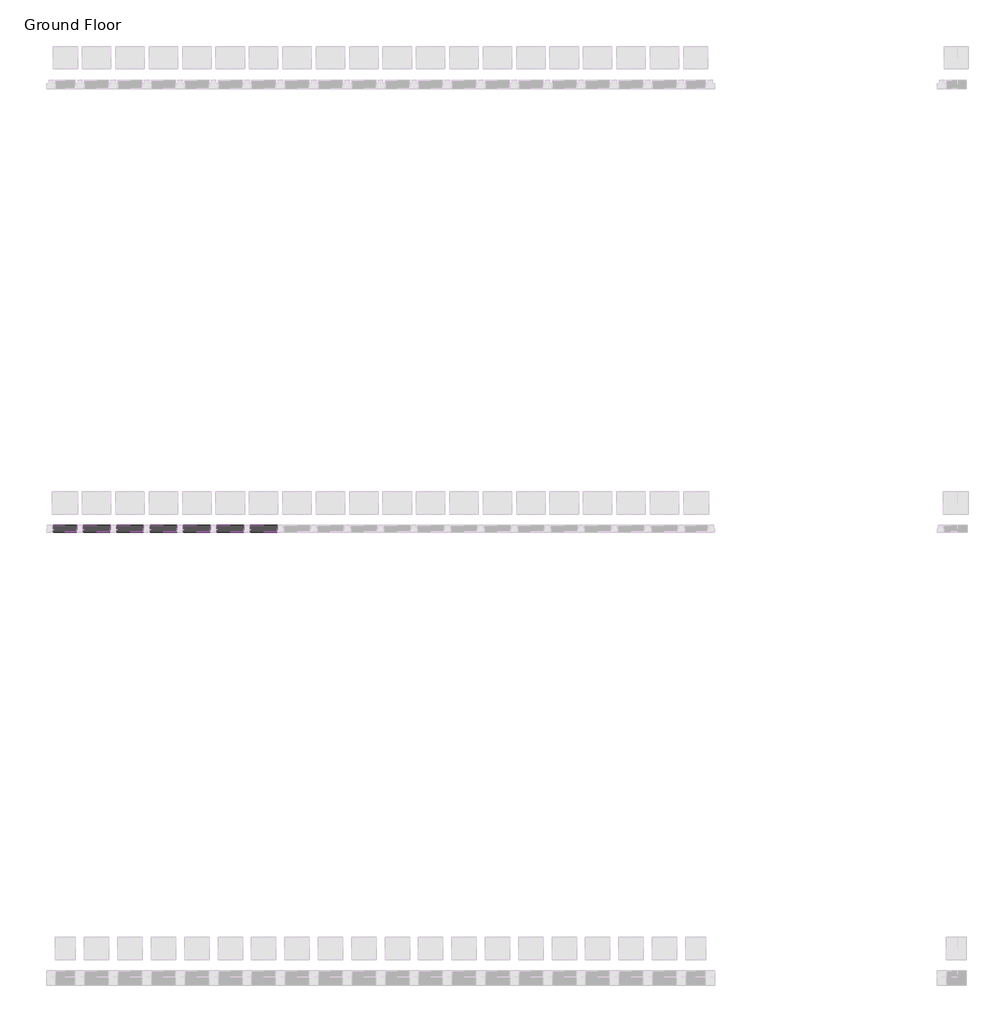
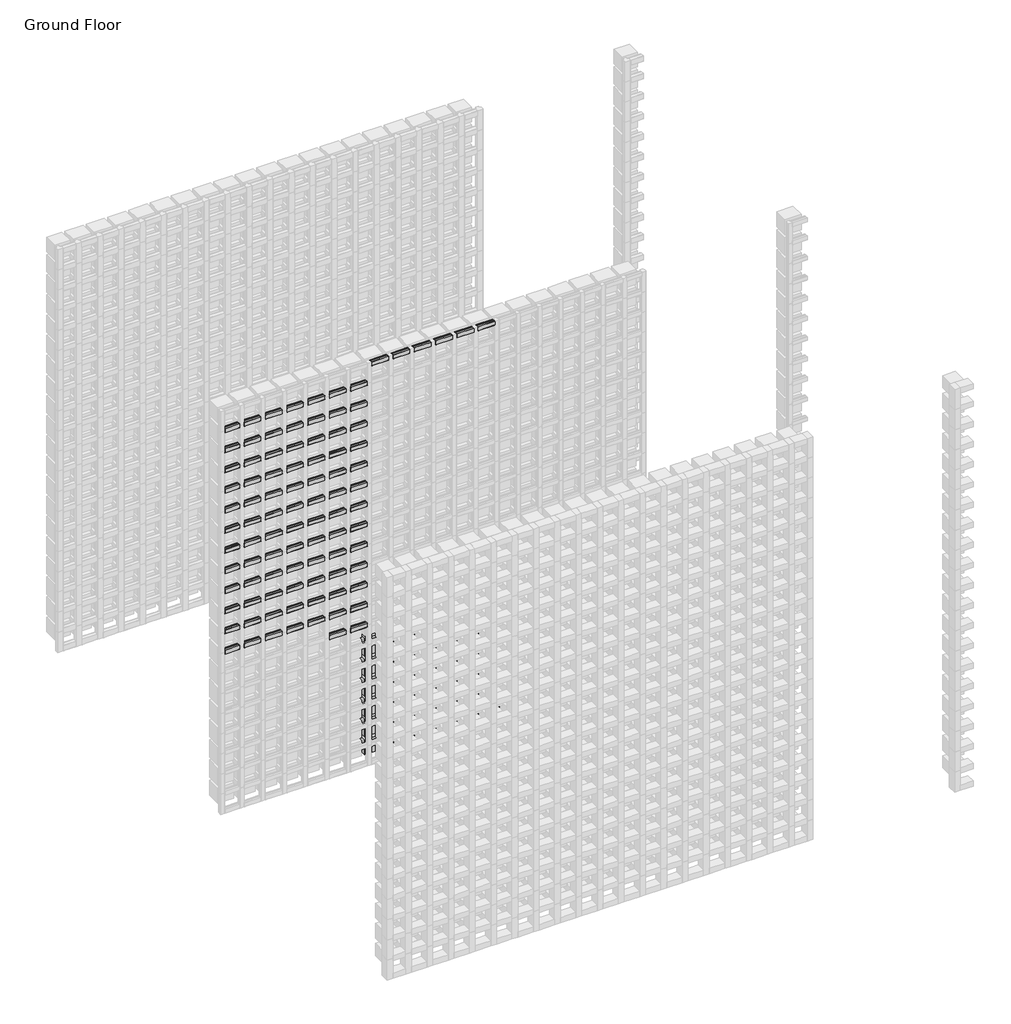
# One storey, part 88 of 350: 104 members, 38 plates.
"""IFC4 building model written with IfcOpenShell, lengths in millimetres."""

from ifc_helpers import new_model, si_unit, origin, place, context, project, spatial, transform, mapped, element, save
from components import rectangular_mullion_f1976eb1, rectangular_mullion_02594090, rectangular_mullion_790ae51e, rectangular_mullion_e2bab149, rectangular_mullion_707a50c4, empty_system_panel_empty_5a3607ba, empty_system_panel_empty_babc703c

model = new_model("IFC4")

# Units and contexts
model_context = context("Model", 3, world=origin())
ifc_project = project(units=[si_unit("LENGTHUNIT", "METRE", prefix="MILLI")], contexts=[model_context])

# Site, building, storey
site = spatial("IfcSite", under=ifc_project)
building = spatial("IfcBuilding", under=site)
storey = spatial("IfcBuildingStorey", under=building, Name="Ground Floor", Elevation=0.0)

# Members
placement = place(None, origin())
rectangular_mullion_shape = rectangular_mullion_f1976eb1(model_context)
element("IfcMember", 1, ObjectType="Rectangular Mullion : Batten_Timber_Modinex_Austratus_Grid_Fin_30x30_AlaskanYellowCedar", at=placement, inside=storey, context=model_context, shape_type="MappedRepresentation", body=[
    mapped(rectangular_mullion_shape, transform((3116.4361642, 42968.2978302, 0.0), x_axis=(1.0, 0.0, 0.0), y_axis=(0.0, -1.0, 0.0), z_axis=(0.0, 0.0, -1.0))),
])
element("IfcMember", 2, ObjectType="Rectangular Mullion : Batten_Timber_Modinex_Austratus_Grid_Fin_30x30_AlaskanYellowCedar", at=placement, inside=storey, context=model_context, shape_type="MappedRepresentation", body=[
    mapped(rectangular_mullion_shape, transform((3266.4361642, 42968.2978302, 0.0), x_axis=(1.0, 0.0, 0.0), y_axis=(0.0, -1.0, 0.0), z_axis=(0.0, 0.0, -1.0))),
])
element("IfcMember", 3, ObjectType="Rectangular Mullion : Batten_Timber_Modinex_Austratus_Grid_Fin_30x30_AlaskanYellowCedar", at=placement, inside=storey, context=model_context, shape_type="MappedRepresentation", body=[
    mapped(rectangular_mullion_shape, transform((3416.4361642, 42968.2978302, 0.0), x_axis=(1.0, 0.0, 0.0), y_axis=(0.0, -1.0, 0.0), z_axis=(0.0, 0.0, -1.0))),
])
element("IfcMember", 4, ObjectType="Rectangular Mullion : Batten_Timber_Modinex_Austratus_Grid_Fin_30x30_AlaskanYellowCedar", at=placement, inside=storey, context=model_context, shape_type="MappedRepresentation", body=[
    mapped(rectangular_mullion_shape, transform((3566.4361642, 42968.2978302, 0.0), x_axis=(1.0, 0.0, 0.0), y_axis=(0.0, -1.0, 0.0), z_axis=(0.0, 0.0, -1.0))),
])
element("IfcMember", 5, ObjectType="Rectangular Mullion : Batten_Timber_Modinex_Austratus_Grid_Fin_30x30_AlaskanYellowCedar", at=placement, inside=storey, context=model_context, shape_type="MappedRepresentation", body=[
    mapped(rectangular_mullion_shape, transform((3716.4361642, 42968.2978302, 0.0), x_axis=(1.0, 0.0, 0.0), y_axis=(0.0, -1.0, 0.0), z_axis=(0.0, 0.0, -1.0))),
])
element("IfcMember", 6, ObjectType="Rectangular Mullion : Batten_Timber_Modinex_Austratus_Grid_Fin_30x30_AlaskanYellowCedar", at=placement, inside=storey, context=model_context, shape_type="MappedRepresentation", body=[
    mapped(rectangular_mullion_shape, transform((3866.4361642, 42968.2978302, 0.0), x_axis=(1.0, 0.0, 0.0), y_axis=(0.0, -1.0, 0.0), z_axis=(0.0, 0.0, -1.0))),
])
rectangular_mullion_2_shape = rectangular_mullion_02594090(model_context)
element("IfcMember", 7, ObjectType="Rectangular Mullion : Batten_Timber_Modinex_Austratus_Grid_Fin_30x30_AlaskanYellowCedar", at=placement, inside=storey, context=model_context, shape_type="MappedRepresentation", body=[
    mapped(rectangular_mullion_2_shape, transform((3101.4361642, 42968.2978302, 3000.0), x_axis=(0.0, 0.0, 1.0), y_axis=(0.0, -1.0, 0.0), z_axis=(1.0, 0.0, 0.0))),
])
element("IfcMember", 8, ObjectType="Rectangular Mullion : Batten_Timber_Modinex_Austratus_Grid_Fin_30x30_AlaskanYellowCedar", at=placement, inside=storey, context=model_context, shape_type="MappedRepresentation", body=[
    mapped(rectangular_mullion_2_shape, transform((3251.4361642, 42968.2978302, 3000.0), x_axis=(0.0, 0.0, 1.0), y_axis=(0.0, -1.0, 0.0), z_axis=(1.0, 0.0, 0.0))),
])
element("IfcMember", 9, ObjectType="Rectangular Mullion : Batten_Timber_Modinex_Austratus_Grid_Fin_30x30_AlaskanYellowCedar", at=placement, inside=storey, context=model_context, shape_type="MappedRepresentation", body=[
    mapped(rectangular_mullion_2_shape, transform((3401.4361642, 42968.2978302, 3000.0), x_axis=(0.0, 0.0, 1.0), y_axis=(0.0, -1.0, 0.0), z_axis=(1.0, 0.0, 0.0))),
])
element("IfcMember", 10, ObjectType="Rectangular Mullion : Batten_Timber_Modinex_Austratus_Grid_Fin_30x30_AlaskanYellowCedar", at=placement, inside=storey, context=model_context, shape_type="MappedRepresentation", body=[
    mapped(rectangular_mullion_2_shape, transform((3551.4361642, 42968.2978302, 3000.0), x_axis=(0.0, 0.0, 1.0), y_axis=(0.0, -1.0, 0.0), z_axis=(1.0, 0.0, 0.0))),
])
element("IfcMember", 11, ObjectType="Rectangular Mullion : Batten_Timber_Modinex_Austratus_Grid_Fin_30x30_AlaskanYellowCedar", at=placement, inside=storey, context=model_context, shape_type="MappedRepresentation", body=[
    mapped(rectangular_mullion_2_shape, transform((3701.4361642, 42968.2978302, 3000.0), x_axis=(0.0, 0.0, 1.0), y_axis=(0.0, -1.0, 0.0), z_axis=(1.0, 0.0, 0.0))),
])
element("IfcMember", 12, ObjectType="Rectangular Mullion : Batten_Timber_Modinex_Austratus_Grid_Fin_30x30_AlaskanYellowCedar", at=placement, inside=storey, context=model_context, shape_type="MappedRepresentation", body=[
    mapped(rectangular_mullion_2_shape, transform((3851.4361642, 42968.2978302, 3000.0), x_axis=(0.0, 0.0, 1.0), y_axis=(0.0, -1.0, 0.0), z_axis=(1.0, 0.0, 0.0))),
])
rectangular_mullion_3_shape = rectangular_mullion_790ae51e(model_context)
element("IfcMember", 13, ObjectType="Rectangular Mullion : Batten_Timber_Modinex_Austratus_Grid_Fin_30x30_AlaskanYellowCedar", at=placement, inside=storey, context=model_context, shape_type="MappedRepresentation", body=[
    mapped(rectangular_mullion_3_shape, transform((3131.4361642, 42968.2978302, 0.0), x_axis=(0.0, 0.0, -1.0), y_axis=(0.0, -1.0, 0.0), z_axis=(-1.0, 0.0, 0.0))),
])
element("IfcMember", 14, ObjectType="Rectangular Mullion : Batten_Timber_Modinex_Austratus_Grid_Fin_30x30_AlaskanYellowCedar", at=placement, inside=storey, context=model_context, shape_type="MappedRepresentation", body=[
    mapped(rectangular_mullion_3_shape, transform((3281.4361642, 42968.2978302, 0.0), x_axis=(0.0, 0.0, -1.0), y_axis=(0.0, -1.0, 0.0), z_axis=(-1.0, 0.0, 0.0))),
])
element("IfcMember", 15, ObjectType="Rectangular Mullion : Batten_Timber_Modinex_Austratus_Grid_Fin_30x30_AlaskanYellowCedar", at=placement, inside=storey, context=model_context, shape_type="MappedRepresentation", body=[
    mapped(rectangular_mullion_3_shape, transform((3431.4361642, 42968.2978302, 0.0), x_axis=(0.0, 0.0, -1.0), y_axis=(0.0, -1.0, 0.0), z_axis=(-1.0, 0.0, 0.0))),
])
element("IfcMember", 16, ObjectType="Rectangular Mullion : Batten_Timber_Modinex_Austratus_Grid_Fin_30x30_AlaskanYellowCedar", at=placement, inside=storey, context=model_context, shape_type="MappedRepresentation", body=[
    mapped(rectangular_mullion_3_shape, transform((3581.4361642, 42968.2978302, 0.0), x_axis=(0.0, 0.0, -1.0), y_axis=(0.0, -1.0, 0.0), z_axis=(-1.0, 0.0, 0.0))),
])
element("IfcMember", 17, ObjectType="Rectangular Mullion : Batten_Timber_Modinex_Austratus_Grid_Fin_30x30_AlaskanYellowCedar", at=placement, inside=storey, context=model_context, shape_type="MappedRepresentation", body=[
    mapped(rectangular_mullion_3_shape, transform((3731.4361642, 42968.2978302, 0.0), x_axis=(0.0, 0.0, -1.0), y_axis=(0.0, -1.0, 0.0), z_axis=(-1.0, 0.0, 0.0))),
])
element("IfcMember", 18, ObjectType="Rectangular Mullion : Batten_Timber_Modinex_Austratus_Grid_Fin_30x30_AlaskanYellowCedar", at=placement, inside=storey, context=model_context, shape_type="MappedRepresentation", body=[
    mapped(rectangular_mullion_3_shape, transform((3881.4361642, 42968.2978302, 0.0), x_axis=(0.0, 0.0, -1.0), y_axis=(0.0, -1.0, 0.0), z_axis=(-1.0, 0.0, 0.0))),
])
rectangular_mullion_4_shape = rectangular_mullion_e2bab149(model_context)
element("IfcMember", 19, ObjectType="Rectangular Mullion : Batten_Timber_Modinex_Austratus_Grid_Fin_30x30_AlaskanYellowCedar", at=placement, inside=storey, context=model_context, shape_type="MappedRepresentation", body=[
    mapped(rectangular_mullion_4_shape, transform((2051.4361642, 42968.2978302, 1200.0), x_axis=(0.0, 0.0, 1.0), y_axis=(0.0, -1.0, 0.0), z_axis=(1.0, 0.0, 0.0))),
])
element("IfcMember", 20, ObjectType="Rectangular Mullion : Batten_Timber_Modinex_Austratus_Grid_Fin_30x30_AlaskanYellowCedar", at=placement, inside=storey, context=model_context, shape_type="MappedRepresentation", body=[
    mapped(rectangular_mullion_4_shape, transform((2051.4361642, 42968.2978302, 1350.0), x_axis=(0.0, 0.0, 1.0), y_axis=(0.0, -1.0, 0.0), z_axis=(1.0, 0.0, 0.0))),
])
element("IfcMember", 21, ObjectType="Rectangular Mullion : Batten_Timber_Modinex_Austratus_Grid_Fin_30x30_AlaskanYellowCedar", at=placement, inside=storey, context=model_context, shape_type="MappedRepresentation", body=[
    mapped(rectangular_mullion_4_shape, transform((2051.4361642, 42968.2978302, 1500.0), x_axis=(0.0, 0.0, 1.0), y_axis=(0.0, -1.0, 0.0), z_axis=(1.0, 0.0, 0.0))),
])
element("IfcMember", 22, ObjectType="Rectangular Mullion : Batten_Timber_Modinex_Austratus_Grid_Fin_30x30_AlaskanYellowCedar", at=placement, inside=storey, context=model_context, shape_type="MappedRepresentation", body=[
    mapped(rectangular_mullion_4_shape, transform((2051.4361642, 42968.2978302, 1650.0), x_axis=(0.0, 0.0, 1.0), y_axis=(0.0, -1.0, 0.0), z_axis=(1.0, 0.0, 0.0))),
])
element("IfcMember", 23, ObjectType="Rectangular Mullion : Batten_Timber_Modinex_Austratus_Grid_Fin_30x30_AlaskanYellowCedar", at=placement, inside=storey, context=model_context, shape_type="MappedRepresentation", body=[
    mapped(rectangular_mullion_4_shape, transform((2051.4361642, 42968.2978302, 1800.0), x_axis=(0.0, 0.0, 1.0), y_axis=(0.0, -1.0, 0.0), z_axis=(1.0, 0.0, 0.0))),
])
element("IfcMember", 24, ObjectType="Rectangular Mullion : Batten_Timber_Modinex_Austratus_Grid_Fin_30x30_AlaskanYellowCedar", at=placement, inside=storey, context=model_context, shape_type="MappedRepresentation", body=[
    mapped(rectangular_mullion_4_shape, transform((2051.4361642, 42968.2978302, 1950.0), x_axis=(0.0, 0.0, 1.0), y_axis=(0.0, -1.0, 0.0), z_axis=(1.0, 0.0, 0.0))),
])
element("IfcMember", 25, ObjectType="Rectangular Mullion : Batten_Timber_Modinex_Austratus_Grid_Fin_30x30_AlaskanYellowCedar", at=placement, inside=storey, context=model_context, shape_type="MappedRepresentation", body=[
    mapped(rectangular_mullion_4_shape, transform((2051.4361642, 42968.2978302, 2100.0), x_axis=(0.0, 0.0, 1.0), y_axis=(0.0, -1.0, 0.0), z_axis=(1.0, 0.0, 0.0))),
])
element("IfcMember", 26, ObjectType="Rectangular Mullion : Batten_Timber_Modinex_Austratus_Grid_Fin_30x30_AlaskanYellowCedar", at=placement, inside=storey, context=model_context, shape_type="MappedRepresentation", body=[
    mapped(rectangular_mullion_4_shape, transform((2051.4361642, 42968.2978302, 2250.0), x_axis=(0.0, 0.0, 1.0), y_axis=(0.0, -1.0, 0.0), z_axis=(1.0, 0.0, 0.0))),
])
element("IfcMember", 27, ObjectType="Rectangular Mullion : Batten_Timber_Modinex_Austratus_Grid_Fin_30x30_AlaskanYellowCedar", at=placement, inside=storey, context=model_context, shape_type="MappedRepresentation", body=[
    mapped(rectangular_mullion_4_shape, transform((2051.4361642, 42968.2978302, 2400.0), x_axis=(0.0, 0.0, 1.0), y_axis=(0.0, -1.0, 0.0), z_axis=(1.0, 0.0, 0.0))),
])
element("IfcMember", 28, ObjectType="Rectangular Mullion : Batten_Timber_Modinex_Austratus_Grid_Fin_30x30_AlaskanYellowCedar", at=placement, inside=storey, context=model_context, shape_type="MappedRepresentation", body=[
    mapped(rectangular_mullion_4_shape, transform((2051.4361642, 42968.2978302, 2550.0), x_axis=(0.0, 0.0, 1.0), y_axis=(0.0, -1.0, 0.0), z_axis=(1.0, 0.0, 0.0))),
])
element("IfcMember", 29, ObjectType="Rectangular Mullion : Batten_Timber_Modinex_Austratus_Grid_Fin_30x30_AlaskanYellowCedar", at=placement, inside=storey, context=model_context, shape_type="MappedRepresentation", body=[
    mapped(rectangular_mullion_4_shape, transform((2051.4361642, 42968.2978302, 2700.0), x_axis=(0.0, 0.0, 1.0), y_axis=(0.0, -1.0, 0.0), z_axis=(1.0, 0.0, 0.0))),
])
element("IfcMember", 30, ObjectType="Rectangular Mullion : Batten_Timber_Modinex_Austratus_Grid_Fin_30x30_AlaskanYellowCedar", at=placement, inside=storey, context=model_context, shape_type="MappedRepresentation", body=[
    mapped(rectangular_mullion_4_shape, transform((2051.4361642, 42968.2978302, 2850.0), x_axis=(0.0, 0.0, 1.0), y_axis=(0.0, -1.0, 0.0), z_axis=(1.0, 0.0, 0.0))),
])
rectangular_mullion_5_shape = rectangular_mullion_707a50c4(model_context)
element("IfcMember", 31, ObjectType="Rectangular Mullion : Batten_Timber_Modinex_Austratus_Grid_Fin_30x30_AlaskanYellowCedar", at=placement, inside=storey, context=model_context, shape_type="MappedRepresentation", body=[
    mapped(rectangular_mullion_5_shape, transform((2801.4361642, 42968.2978302, 1050.0), x_axis=(0.0, 0.0, 1.0), y_axis=(0.0, -1.0, 0.0), z_axis=(1.0, 0.0, 0.0))),
])
element("IfcMember", 32, ObjectType="Rectangular Mullion : Batten_Timber_Modinex_Austratus_Grid_Fin_30x30_AlaskanYellowCedar", at=placement, inside=storey, context=model_context, shape_type="MappedRepresentation", body=[
    mapped(rectangular_mullion_5_shape, transform((2951.4361642, 42968.2978302, 1050.0), x_axis=(0.0, 0.0, 1.0), y_axis=(0.0, -1.0, 0.0), z_axis=(1.0, 0.0, 0.0))),
])
element("IfcMember", 33, ObjectType="Rectangular Mullion : Batten_Timber_Modinex_Austratus_Grid_Fin_30x30_AlaskanYellowCedar", at=placement, inside=storey, context=model_context, shape_type="MappedRepresentation", body=[
    mapped(rectangular_mullion_5_shape, transform((2201.4361642, 42968.2978302, 1200.0), x_axis=(0.0, 0.0, 1.0), y_axis=(0.0, -1.0, 0.0), z_axis=(1.0, 0.0, 0.0))),
])
element("IfcMember", 34, ObjectType="Rectangular Mullion : Batten_Timber_Modinex_Austratus_Grid_Fin_30x30_AlaskanYellowCedar", at=placement, inside=storey, context=model_context, shape_type="MappedRepresentation", body=[
    mapped(rectangular_mullion_5_shape, transform((2351.4361642, 42968.2978302, 1200.0), x_axis=(0.0, 0.0, 1.0), y_axis=(0.0, -1.0, 0.0), z_axis=(1.0, 0.0, 0.0))),
])
element("IfcMember", 35, ObjectType="Rectangular Mullion : Batten_Timber_Modinex_Austratus_Grid_Fin_30x30_AlaskanYellowCedar", at=placement, inside=storey, context=model_context, shape_type="MappedRepresentation", body=[
    mapped(rectangular_mullion_5_shape, transform((2501.4361642, 42968.2978302, 1200.0), x_axis=(0.0, 0.0, 1.0), y_axis=(0.0, -1.0, 0.0), z_axis=(1.0, 0.0, 0.0))),
])
element("IfcMember", 36, ObjectType="Rectangular Mullion : Batten_Timber_Modinex_Austratus_Grid_Fin_30x30_AlaskanYellowCedar", at=placement, inside=storey, context=model_context, shape_type="MappedRepresentation", body=[
    mapped(rectangular_mullion_5_shape, transform((2651.4361642, 42968.2978302, 1200.0), x_axis=(0.0, 0.0, 1.0), y_axis=(0.0, -1.0, 0.0), z_axis=(1.0, 0.0, 0.0))),
])
element("IfcMember", 37, ObjectType="Rectangular Mullion : Batten_Timber_Modinex_Austratus_Grid_Fin_30x30_AlaskanYellowCedar", at=placement, inside=storey, context=model_context, shape_type="MappedRepresentation", body=[
    mapped(rectangular_mullion_5_shape, transform((2801.4361642, 42968.2978302, 1200.0), x_axis=(0.0, 0.0, 1.0), y_axis=(0.0, -1.0, 0.0), z_axis=(1.0, 0.0, 0.0))),
])
element("IfcMember", 38, ObjectType="Rectangular Mullion : Batten_Timber_Modinex_Austratus_Grid_Fin_30x30_AlaskanYellowCedar", at=placement, inside=storey, context=model_context, shape_type="MappedRepresentation", body=[
    mapped(rectangular_mullion_5_shape, transform((2951.4361642, 42968.2978302, 1200.0), x_axis=(0.0, 0.0, 1.0), y_axis=(0.0, -1.0, 0.0), z_axis=(1.0, 0.0, 0.0))),
])
element("IfcMember", 39, ObjectType="Rectangular Mullion : Batten_Timber_Modinex_Austratus_Grid_Fin_30x30_AlaskanYellowCedar", at=placement, inside=storey, context=model_context, shape_type="MappedRepresentation", body=[
    mapped(rectangular_mullion_5_shape, transform((2201.4361642, 42968.2978302, 1350.0), x_axis=(0.0, 0.0, 1.0), y_axis=(0.0, -1.0, 0.0), z_axis=(1.0, 0.0, 0.0))),
])
element("IfcMember", 40, ObjectType="Rectangular Mullion : Batten_Timber_Modinex_Austratus_Grid_Fin_30x30_AlaskanYellowCedar", at=placement, inside=storey, context=model_context, shape_type="MappedRepresentation", body=[
    mapped(rectangular_mullion_5_shape, transform((2351.4361642, 42968.2978302, 1350.0), x_axis=(0.0, 0.0, 1.0), y_axis=(0.0, -1.0, 0.0), z_axis=(1.0, 0.0, 0.0))),
])
element("IfcMember", 41, ObjectType="Rectangular Mullion : Batten_Timber_Modinex_Austratus_Grid_Fin_30x30_AlaskanYellowCedar", at=placement, inside=storey, context=model_context, shape_type="MappedRepresentation", body=[
    mapped(rectangular_mullion_5_shape, transform((2501.4361642, 42968.2978302, 1350.0), x_axis=(0.0, 0.0, 1.0), y_axis=(0.0, -1.0, 0.0), z_axis=(1.0, 0.0, 0.0))),
])
element("IfcMember", 42, ObjectType="Rectangular Mullion : Batten_Timber_Modinex_Austratus_Grid_Fin_30x30_AlaskanYellowCedar", at=placement, inside=storey, context=model_context, shape_type="MappedRepresentation", body=[
    mapped(rectangular_mullion_5_shape, transform((2651.4361642, 42968.2978302, 1350.0), x_axis=(0.0, 0.0, 1.0), y_axis=(0.0, -1.0, 0.0), z_axis=(1.0, 0.0, 0.0))),
])
element("IfcMember", 43, ObjectType="Rectangular Mullion : Batten_Timber_Modinex_Austratus_Grid_Fin_30x30_AlaskanYellowCedar", at=placement, inside=storey, context=model_context, shape_type="MappedRepresentation", body=[
    mapped(rectangular_mullion_5_shape, transform((2801.4361642, 42968.2978302, 1350.0), x_axis=(0.0, 0.0, 1.0), y_axis=(0.0, -1.0, 0.0), z_axis=(1.0, 0.0, 0.0))),
])
element("IfcMember", 44, ObjectType="Rectangular Mullion : Batten_Timber_Modinex_Austratus_Grid_Fin_30x30_AlaskanYellowCedar", at=placement, inside=storey, context=model_context, shape_type="MappedRepresentation", body=[
    mapped(rectangular_mullion_5_shape, transform((2951.4361642, 42968.2978302, 1350.0), x_axis=(0.0, 0.0, 1.0), y_axis=(0.0, -1.0, 0.0), z_axis=(1.0, 0.0, 0.0))),
])
element("IfcMember", 45, ObjectType="Rectangular Mullion : Batten_Timber_Modinex_Austratus_Grid_Fin_30x30_AlaskanYellowCedar", at=placement, inside=storey, context=model_context, shape_type="MappedRepresentation", body=[
    mapped(rectangular_mullion_5_shape, transform((2201.4361642, 42968.2978302, 1500.0), x_axis=(0.0, 0.0, 1.0), y_axis=(0.0, -1.0, 0.0), z_axis=(1.0, 0.0, 0.0))),
])
element("IfcMember", 46, ObjectType="Rectangular Mullion : Batten_Timber_Modinex_Austratus_Grid_Fin_30x30_AlaskanYellowCedar", at=placement, inside=storey, context=model_context, shape_type="MappedRepresentation", body=[
    mapped(rectangular_mullion_5_shape, transform((2351.4361642, 42968.2978302, 1500.0), x_axis=(0.0, 0.0, 1.0), y_axis=(0.0, -1.0, 0.0), z_axis=(1.0, 0.0, 0.0))),
])
element("IfcMember", 47, ObjectType="Rectangular Mullion : Batten_Timber_Modinex_Austratus_Grid_Fin_30x30_AlaskanYellowCedar", at=placement, inside=storey, context=model_context, shape_type="MappedRepresentation", body=[
    mapped(rectangular_mullion_5_shape, transform((2501.4361642, 42968.2978302, 1500.0), x_axis=(0.0, 0.0, 1.0), y_axis=(0.0, -1.0, 0.0), z_axis=(1.0, 0.0, 0.0))),
])
element("IfcMember", 48, ObjectType="Rectangular Mullion : Batten_Timber_Modinex_Austratus_Grid_Fin_30x30_AlaskanYellowCedar", at=placement, inside=storey, context=model_context, shape_type="MappedRepresentation", body=[
    mapped(rectangular_mullion_5_shape, transform((2651.4361642, 42968.2978302, 1500.0), x_axis=(0.0, 0.0, 1.0), y_axis=(0.0, -1.0, 0.0), z_axis=(1.0, 0.0, 0.0))),
])
element("IfcMember", 49, ObjectType="Rectangular Mullion : Batten_Timber_Modinex_Austratus_Grid_Fin_30x30_AlaskanYellowCedar", at=placement, inside=storey, context=model_context, shape_type="MappedRepresentation", body=[
    mapped(rectangular_mullion_5_shape, transform((2801.4361642, 42968.2978302, 1500.0), x_axis=(0.0, 0.0, 1.0), y_axis=(0.0, -1.0, 0.0), z_axis=(1.0, 0.0, 0.0))),
])
element("IfcMember", 50, ObjectType="Rectangular Mullion : Batten_Timber_Modinex_Austratus_Grid_Fin_30x30_AlaskanYellowCedar", at=placement, inside=storey, context=model_context, shape_type="MappedRepresentation", body=[
    mapped(rectangular_mullion_5_shape, transform((2951.4361642, 42968.2978302, 1500.0), x_axis=(0.0, 0.0, 1.0), y_axis=(0.0, -1.0, 0.0), z_axis=(1.0, 0.0, 0.0))),
])
element("IfcMember", 51, ObjectType="Rectangular Mullion : Batten_Timber_Modinex_Austratus_Grid_Fin_30x30_AlaskanYellowCedar", at=placement, inside=storey, context=model_context, shape_type="MappedRepresentation", body=[
    mapped(rectangular_mullion_5_shape, transform((2201.4361642, 42968.2978302, 1650.0), x_axis=(0.0, 0.0, 1.0), y_axis=(0.0, -1.0, 0.0), z_axis=(1.0, 0.0, 0.0))),
])
element("IfcMember", 52, ObjectType="Rectangular Mullion : Batten_Timber_Modinex_Austratus_Grid_Fin_30x30_AlaskanYellowCedar", at=placement, inside=storey, context=model_context, shape_type="MappedRepresentation", body=[
    mapped(rectangular_mullion_5_shape, transform((2351.4361642, 42968.2978302, 1650.0), x_axis=(0.0, 0.0, 1.0), y_axis=(0.0, -1.0, 0.0), z_axis=(1.0, 0.0, 0.0))),
])
element("IfcMember", 53, ObjectType="Rectangular Mullion : Batten_Timber_Modinex_Austratus_Grid_Fin_30x30_AlaskanYellowCedar", at=placement, inside=storey, context=model_context, shape_type="MappedRepresentation", body=[
    mapped(rectangular_mullion_5_shape, transform((2501.4361642, 42968.2978302, 1650.0), x_axis=(0.0, 0.0, 1.0), y_axis=(0.0, -1.0, 0.0), z_axis=(1.0, 0.0, 0.0))),
])
element("IfcMember", 54, ObjectType="Rectangular Mullion : Batten_Timber_Modinex_Austratus_Grid_Fin_30x30_AlaskanYellowCedar", at=placement, inside=storey, context=model_context, shape_type="MappedRepresentation", body=[
    mapped(rectangular_mullion_5_shape, transform((2651.4361642, 42968.2978302, 1650.0), x_axis=(0.0, 0.0, 1.0), y_axis=(0.0, -1.0, 0.0), z_axis=(1.0, 0.0, 0.0))),
])
element("IfcMember", 55, ObjectType="Rectangular Mullion : Batten_Timber_Modinex_Austratus_Grid_Fin_30x30_AlaskanYellowCedar", at=placement, inside=storey, context=model_context, shape_type="MappedRepresentation", body=[
    mapped(rectangular_mullion_5_shape, transform((2801.4361642, 42968.2978302, 1650.0), x_axis=(0.0, 0.0, 1.0), y_axis=(0.0, -1.0, 0.0), z_axis=(1.0, 0.0, 0.0))),
])
element("IfcMember", 56, ObjectType="Rectangular Mullion : Batten_Timber_Modinex_Austratus_Grid_Fin_30x30_AlaskanYellowCedar", at=placement, inside=storey, context=model_context, shape_type="MappedRepresentation", body=[
    mapped(rectangular_mullion_5_shape, transform((2951.4361642, 42968.2978302, 1650.0), x_axis=(0.0, 0.0, 1.0), y_axis=(0.0, -1.0, 0.0), z_axis=(1.0, 0.0, 0.0))),
])
element("IfcMember", 57, ObjectType="Rectangular Mullion : Batten_Timber_Modinex_Austratus_Grid_Fin_30x30_AlaskanYellowCedar", at=placement, inside=storey, context=model_context, shape_type="MappedRepresentation", body=[
    mapped(rectangular_mullion_5_shape, transform((2201.4361642, 42968.2978302, 1800.0), x_axis=(0.0, 0.0, 1.0), y_axis=(0.0, -1.0, 0.0), z_axis=(1.0, 0.0, 0.0))),
])
element("IfcMember", 58, ObjectType="Rectangular Mullion : Batten_Timber_Modinex_Austratus_Grid_Fin_30x30_AlaskanYellowCedar", at=placement, inside=storey, context=model_context, shape_type="MappedRepresentation", body=[
    mapped(rectangular_mullion_5_shape, transform((2351.4361642, 42968.2978302, 1800.0), x_axis=(0.0, 0.0, 1.0), y_axis=(0.0, -1.0, 0.0), z_axis=(1.0, 0.0, 0.0))),
])
element("IfcMember", 59, ObjectType="Rectangular Mullion : Batten_Timber_Modinex_Austratus_Grid_Fin_30x30_AlaskanYellowCedar", at=placement, inside=storey, context=model_context, shape_type="MappedRepresentation", body=[
    mapped(rectangular_mullion_5_shape, transform((2501.4361642, 42968.2978302, 1800.0), x_axis=(0.0, 0.0, 1.0), y_axis=(0.0, -1.0, 0.0), z_axis=(1.0, 0.0, 0.0))),
])
element("IfcMember", 60, ObjectType="Rectangular Mullion : Batten_Timber_Modinex_Austratus_Grid_Fin_30x30_AlaskanYellowCedar", at=placement, inside=storey, context=model_context, shape_type="MappedRepresentation", body=[
    mapped(rectangular_mullion_5_shape, transform((2651.4361642, 42968.2978302, 1800.0), x_axis=(0.0, 0.0, 1.0), y_axis=(0.0, -1.0, 0.0), z_axis=(1.0, 0.0, 0.0))),
])
element("IfcMember", 61, ObjectType="Rectangular Mullion : Batten_Timber_Modinex_Austratus_Grid_Fin_30x30_AlaskanYellowCedar", at=placement, inside=storey, context=model_context, shape_type="MappedRepresentation", body=[
    mapped(rectangular_mullion_5_shape, transform((2801.4361642, 42968.2978302, 1800.0), x_axis=(0.0, 0.0, 1.0), y_axis=(0.0, -1.0, 0.0), z_axis=(1.0, 0.0, 0.0))),
])
element("IfcMember", 62, ObjectType="Rectangular Mullion : Batten_Timber_Modinex_Austratus_Grid_Fin_30x30_AlaskanYellowCedar", at=placement, inside=storey, context=model_context, shape_type="MappedRepresentation", body=[
    mapped(rectangular_mullion_5_shape, transform((2951.4361642, 42968.2978302, 1800.0), x_axis=(0.0, 0.0, 1.0), y_axis=(0.0, -1.0, 0.0), z_axis=(1.0, 0.0, 0.0))),
])
element("IfcMember", 63, ObjectType="Rectangular Mullion : Batten_Timber_Modinex_Austratus_Grid_Fin_30x30_AlaskanYellowCedar", at=placement, inside=storey, context=model_context, shape_type="MappedRepresentation", body=[
    mapped(rectangular_mullion_5_shape, transform((2201.4361642, 42968.2978302, 1950.0), x_axis=(0.0, 0.0, 1.0), y_axis=(0.0, -1.0, 0.0), z_axis=(1.0, 0.0, 0.0))),
])
element("IfcMember", 64, ObjectType="Rectangular Mullion : Batten_Timber_Modinex_Austratus_Grid_Fin_30x30_AlaskanYellowCedar", at=placement, inside=storey, context=model_context, shape_type="MappedRepresentation", body=[
    mapped(rectangular_mullion_5_shape, transform((2351.4361642, 42968.2978302, 1950.0), x_axis=(0.0, 0.0, 1.0), y_axis=(0.0, -1.0, 0.0), z_axis=(1.0, 0.0, 0.0))),
])
element("IfcMember", 65, ObjectType="Rectangular Mullion : Batten_Timber_Modinex_Austratus_Grid_Fin_30x30_AlaskanYellowCedar", at=placement, inside=storey, context=model_context, shape_type="MappedRepresentation", body=[
    mapped(rectangular_mullion_5_shape, transform((2501.4361642, 42968.2978302, 1950.0), x_axis=(0.0, 0.0, 1.0), y_axis=(0.0, -1.0, 0.0), z_axis=(1.0, 0.0, 0.0))),
])
element("IfcMember", 66, ObjectType="Rectangular Mullion : Batten_Timber_Modinex_Austratus_Grid_Fin_30x30_AlaskanYellowCedar", at=placement, inside=storey, context=model_context, shape_type="MappedRepresentation", body=[
    mapped(rectangular_mullion_5_shape, transform((2651.4361642, 42968.2978302, 1950.0), x_axis=(0.0, 0.0, 1.0), y_axis=(0.0, -1.0, 0.0), z_axis=(1.0, 0.0, 0.0))),
])
element("IfcMember", 67, ObjectType="Rectangular Mullion : Batten_Timber_Modinex_Austratus_Grid_Fin_30x30_AlaskanYellowCedar", at=placement, inside=storey, context=model_context, shape_type="MappedRepresentation", body=[
    mapped(rectangular_mullion_5_shape, transform((2801.4361642, 42968.2978302, 1950.0), x_axis=(0.0, 0.0, 1.0), y_axis=(0.0, -1.0, 0.0), z_axis=(1.0, 0.0, 0.0))),
])
element("IfcMember", 68, ObjectType="Rectangular Mullion : Batten_Timber_Modinex_Austratus_Grid_Fin_30x30_AlaskanYellowCedar", at=placement, inside=storey, context=model_context, shape_type="MappedRepresentation", body=[
    mapped(rectangular_mullion_5_shape, transform((2951.4361642, 42968.2978302, 1950.0), x_axis=(0.0, 0.0, 1.0), y_axis=(0.0, -1.0, 0.0), z_axis=(1.0, 0.0, 0.0))),
])
element("IfcMember", 69, ObjectType="Rectangular Mullion : Batten_Timber_Modinex_Austratus_Grid_Fin_30x30_AlaskanYellowCedar", at=placement, inside=storey, context=model_context, shape_type="MappedRepresentation", body=[
    mapped(rectangular_mullion_5_shape, transform((2201.4361642, 42968.2978302, 2100.0), x_axis=(0.0, 0.0, 1.0), y_axis=(0.0, -1.0, 0.0), z_axis=(1.0, 0.0, 0.0))),
])
element("IfcMember", 70, ObjectType="Rectangular Mullion : Batten_Timber_Modinex_Austratus_Grid_Fin_30x30_AlaskanYellowCedar", at=placement, inside=storey, context=model_context, shape_type="MappedRepresentation", body=[
    mapped(rectangular_mullion_5_shape, transform((2351.4361642, 42968.2978302, 2100.0), x_axis=(0.0, 0.0, 1.0), y_axis=(0.0, -1.0, 0.0), z_axis=(1.0, 0.0, 0.0))),
])
element("IfcMember", 71, ObjectType="Rectangular Mullion : Batten_Timber_Modinex_Austratus_Grid_Fin_30x30_AlaskanYellowCedar", at=placement, inside=storey, context=model_context, shape_type="MappedRepresentation", body=[
    mapped(rectangular_mullion_5_shape, transform((2501.4361642, 42968.2978302, 2100.0), x_axis=(0.0, 0.0, 1.0), y_axis=(0.0, -1.0, 0.0), z_axis=(1.0, 0.0, 0.0))),
])
element("IfcMember", 72, ObjectType="Rectangular Mullion : Batten_Timber_Modinex_Austratus_Grid_Fin_30x30_AlaskanYellowCedar", at=placement, inside=storey, context=model_context, shape_type="MappedRepresentation", body=[
    mapped(rectangular_mullion_5_shape, transform((2651.4361642, 42968.2978302, 2100.0), x_axis=(0.0, 0.0, 1.0), y_axis=(0.0, -1.0, 0.0), z_axis=(1.0, 0.0, 0.0))),
])
element("IfcMember", 73, ObjectType="Rectangular Mullion : Batten_Timber_Modinex_Austratus_Grid_Fin_30x30_AlaskanYellowCedar", at=placement, inside=storey, context=model_context, shape_type="MappedRepresentation", body=[
    mapped(rectangular_mullion_5_shape, transform((2801.4361642, 42968.2978302, 2100.0), x_axis=(0.0, 0.0, 1.0), y_axis=(0.0, -1.0, 0.0), z_axis=(1.0, 0.0, 0.0))),
])
element("IfcMember", 74, ObjectType="Rectangular Mullion : Batten_Timber_Modinex_Austratus_Grid_Fin_30x30_AlaskanYellowCedar", at=placement, inside=storey, context=model_context, shape_type="MappedRepresentation", body=[
    mapped(rectangular_mullion_5_shape, transform((2951.4361642, 42968.2978302, 2100.0), x_axis=(0.0, 0.0, 1.0), y_axis=(0.0, -1.0, 0.0), z_axis=(1.0, 0.0, 0.0))),
])
element("IfcMember", 75, ObjectType="Rectangular Mullion : Batten_Timber_Modinex_Austratus_Grid_Fin_30x30_AlaskanYellowCedar", at=placement, inside=storey, context=model_context, shape_type="MappedRepresentation", body=[
    mapped(rectangular_mullion_5_shape, transform((2201.4361642, 42968.2978302, 2250.0), x_axis=(0.0, 0.0, 1.0), y_axis=(0.0, -1.0, 0.0), z_axis=(1.0, 0.0, 0.0))),
])
element("IfcMember", 76, ObjectType="Rectangular Mullion : Batten_Timber_Modinex_Austratus_Grid_Fin_30x30_AlaskanYellowCedar", at=placement, inside=storey, context=model_context, shape_type="MappedRepresentation", body=[
    mapped(rectangular_mullion_5_shape, transform((2351.4361642, 42968.2978302, 2250.0), x_axis=(0.0, 0.0, 1.0), y_axis=(0.0, -1.0, 0.0), z_axis=(1.0, 0.0, 0.0))),
])
element("IfcMember", 77, ObjectType="Rectangular Mullion : Batten_Timber_Modinex_Austratus_Grid_Fin_30x30_AlaskanYellowCedar", at=placement, inside=storey, context=model_context, shape_type="MappedRepresentation", body=[
    mapped(rectangular_mullion_5_shape, transform((2501.4361642, 42968.2978302, 2250.0), x_axis=(0.0, 0.0, 1.0), y_axis=(0.0, -1.0, 0.0), z_axis=(1.0, 0.0, 0.0))),
])
element("IfcMember", 78, ObjectType="Rectangular Mullion : Batten_Timber_Modinex_Austratus_Grid_Fin_30x30_AlaskanYellowCedar", at=placement, inside=storey, context=model_context, shape_type="MappedRepresentation", body=[
    mapped(rectangular_mullion_5_shape, transform((2651.4361642, 42968.2978302, 2250.0), x_axis=(0.0, 0.0, 1.0), y_axis=(0.0, -1.0, 0.0), z_axis=(1.0, 0.0, 0.0))),
])
element("IfcMember", 79, ObjectType="Rectangular Mullion : Batten_Timber_Modinex_Austratus_Grid_Fin_30x30_AlaskanYellowCedar", at=placement, inside=storey, context=model_context, shape_type="MappedRepresentation", body=[
    mapped(rectangular_mullion_5_shape, transform((2801.4361642, 42968.2978302, 2250.0), x_axis=(0.0, 0.0, 1.0), y_axis=(0.0, -1.0, 0.0), z_axis=(1.0, 0.0, 0.0))),
])
element("IfcMember", 80, ObjectType="Rectangular Mullion : Batten_Timber_Modinex_Austratus_Grid_Fin_30x30_AlaskanYellowCedar", at=placement, inside=storey, context=model_context, shape_type="MappedRepresentation", body=[
    mapped(rectangular_mullion_5_shape, transform((2951.4361642, 42968.2978302, 2250.0), x_axis=(0.0, 0.0, 1.0), y_axis=(0.0, -1.0, 0.0), z_axis=(1.0, 0.0, 0.0))),
])
element("IfcMember", 81, ObjectType="Rectangular Mullion : Batten_Timber_Modinex_Austratus_Grid_Fin_30x30_AlaskanYellowCedar", at=placement, inside=storey, context=model_context, shape_type="MappedRepresentation", body=[
    mapped(rectangular_mullion_5_shape, transform((2201.4361642, 42968.2978302, 2400.0), x_axis=(0.0, 0.0, 1.0), y_axis=(0.0, -1.0, 0.0), z_axis=(1.0, 0.0, 0.0))),
])
element("IfcMember", 82, ObjectType="Rectangular Mullion : Batten_Timber_Modinex_Austratus_Grid_Fin_30x30_AlaskanYellowCedar", at=placement, inside=storey, context=model_context, shape_type="MappedRepresentation", body=[
    mapped(rectangular_mullion_5_shape, transform((2351.4361642, 42968.2978302, 2400.0), x_axis=(0.0, 0.0, 1.0), y_axis=(0.0, -1.0, 0.0), z_axis=(1.0, 0.0, 0.0))),
])
element("IfcMember", 83, ObjectType="Rectangular Mullion : Batten_Timber_Modinex_Austratus_Grid_Fin_30x30_AlaskanYellowCedar", at=placement, inside=storey, context=model_context, shape_type="MappedRepresentation", body=[
    mapped(rectangular_mullion_5_shape, transform((2501.4361642, 42968.2978302, 2400.0), x_axis=(0.0, 0.0, 1.0), y_axis=(0.0, -1.0, 0.0), z_axis=(1.0, 0.0, 0.0))),
])
element("IfcMember", 84, ObjectType="Rectangular Mullion : Batten_Timber_Modinex_Austratus_Grid_Fin_30x30_AlaskanYellowCedar", at=placement, inside=storey, context=model_context, shape_type="MappedRepresentation", body=[
    mapped(rectangular_mullion_5_shape, transform((2651.4361642, 42968.2978302, 2400.0), x_axis=(0.0, 0.0, 1.0), y_axis=(0.0, -1.0, 0.0), z_axis=(1.0, 0.0, 0.0))),
])
element("IfcMember", 85, ObjectType="Rectangular Mullion : Batten_Timber_Modinex_Austratus_Grid_Fin_30x30_AlaskanYellowCedar", at=placement, inside=storey, context=model_context, shape_type="MappedRepresentation", body=[
    mapped(rectangular_mullion_5_shape, transform((2801.4361642, 42968.2978302, 2400.0), x_axis=(0.0, 0.0, 1.0), y_axis=(0.0, -1.0, 0.0), z_axis=(1.0, 0.0, 0.0))),
])
element("IfcMember", 86, ObjectType="Rectangular Mullion : Batten_Timber_Modinex_Austratus_Grid_Fin_30x30_AlaskanYellowCedar", at=placement, inside=storey, context=model_context, shape_type="MappedRepresentation", body=[
    mapped(rectangular_mullion_5_shape, transform((2951.4361642, 42968.2978302, 2400.0), x_axis=(0.0, 0.0, 1.0), y_axis=(0.0, -1.0, 0.0), z_axis=(1.0, 0.0, 0.0))),
])
element("IfcMember", 87, ObjectType="Rectangular Mullion : Batten_Timber_Modinex_Austratus_Grid_Fin_30x30_AlaskanYellowCedar", at=placement, inside=storey, context=model_context, shape_type="MappedRepresentation", body=[
    mapped(rectangular_mullion_5_shape, transform((2201.4361642, 42968.2978302, 2550.0), x_axis=(0.0, 0.0, 1.0), y_axis=(0.0, -1.0, 0.0), z_axis=(1.0, 0.0, 0.0))),
])
element("IfcMember", 88, ObjectType="Rectangular Mullion : Batten_Timber_Modinex_Austratus_Grid_Fin_30x30_AlaskanYellowCedar", at=placement, inside=storey, context=model_context, shape_type="MappedRepresentation", body=[
    mapped(rectangular_mullion_5_shape, transform((2351.4361642, 42968.2978302, 2550.0), x_axis=(0.0, 0.0, 1.0), y_axis=(0.0, -1.0, 0.0), z_axis=(1.0, 0.0, 0.0))),
])
element("IfcMember", 89, ObjectType="Rectangular Mullion : Batten_Timber_Modinex_Austratus_Grid_Fin_30x30_AlaskanYellowCedar", at=placement, inside=storey, context=model_context, shape_type="MappedRepresentation", body=[
    mapped(rectangular_mullion_5_shape, transform((2501.4361642, 42968.2978302, 2550.0), x_axis=(0.0, 0.0, 1.0), y_axis=(0.0, -1.0, 0.0), z_axis=(1.0, 0.0, 0.0))),
])
element("IfcMember", 90, ObjectType="Rectangular Mullion : Batten_Timber_Modinex_Austratus_Grid_Fin_30x30_AlaskanYellowCedar", at=placement, inside=storey, context=model_context, shape_type="MappedRepresentation", body=[
    mapped(rectangular_mullion_5_shape, transform((2651.4361642, 42968.2978302, 2550.0), x_axis=(0.0, 0.0, 1.0), y_axis=(0.0, -1.0, 0.0), z_axis=(1.0, 0.0, 0.0))),
])
element("IfcMember", 91, ObjectType="Rectangular Mullion : Batten_Timber_Modinex_Austratus_Grid_Fin_30x30_AlaskanYellowCedar", at=placement, inside=storey, context=model_context, shape_type="MappedRepresentation", body=[
    mapped(rectangular_mullion_5_shape, transform((2801.4361642, 42968.2978302, 2550.0), x_axis=(0.0, 0.0, 1.0), y_axis=(0.0, -1.0, 0.0), z_axis=(1.0, 0.0, 0.0))),
])
element("IfcMember", 92, ObjectType="Rectangular Mullion : Batten_Timber_Modinex_Austratus_Grid_Fin_30x30_AlaskanYellowCedar", at=placement, inside=storey, context=model_context, shape_type="MappedRepresentation", body=[
    mapped(rectangular_mullion_5_shape, transform((2951.4361642, 42968.2978302, 2550.0), x_axis=(0.0, 0.0, 1.0), y_axis=(0.0, -1.0, 0.0), z_axis=(1.0, 0.0, 0.0))),
])
element("IfcMember", 93, ObjectType="Rectangular Mullion : Batten_Timber_Modinex_Austratus_Grid_Fin_30x30_AlaskanYellowCedar", at=placement, inside=storey, context=model_context, shape_type="MappedRepresentation", body=[
    mapped(rectangular_mullion_5_shape, transform((2201.4361642, 42968.2978302, 2700.0), x_axis=(0.0, 0.0, 1.0), y_axis=(0.0, -1.0, 0.0), z_axis=(1.0, 0.0, 0.0))),
])
element("IfcMember", 94, ObjectType="Rectangular Mullion : Batten_Timber_Modinex_Austratus_Grid_Fin_30x30_AlaskanYellowCedar", at=placement, inside=storey, context=model_context, shape_type="MappedRepresentation", body=[
    mapped(rectangular_mullion_5_shape, transform((2351.4361642, 42968.2978302, 2700.0), x_axis=(0.0, 0.0, 1.0), y_axis=(0.0, -1.0, 0.0), z_axis=(1.0, 0.0, 0.0))),
])
element("IfcMember", 95, ObjectType="Rectangular Mullion : Batten_Timber_Modinex_Austratus_Grid_Fin_30x30_AlaskanYellowCedar", at=placement, inside=storey, context=model_context, shape_type="MappedRepresentation", body=[
    mapped(rectangular_mullion_5_shape, transform((2501.4361642, 42968.2978302, 2700.0), x_axis=(0.0, 0.0, 1.0), y_axis=(0.0, -1.0, 0.0), z_axis=(1.0, 0.0, 0.0))),
])
element("IfcMember", 96, ObjectType="Rectangular Mullion : Batten_Timber_Modinex_Austratus_Grid_Fin_30x30_AlaskanYellowCedar", at=placement, inside=storey, context=model_context, shape_type="MappedRepresentation", body=[
    mapped(rectangular_mullion_5_shape, transform((2651.4361642, 42968.2978302, 2700.0), x_axis=(0.0, 0.0, 1.0), y_axis=(0.0, -1.0, 0.0), z_axis=(1.0, 0.0, 0.0))),
])
element("IfcMember", 97, ObjectType="Rectangular Mullion : Batten_Timber_Modinex_Austratus_Grid_Fin_30x30_AlaskanYellowCedar", at=placement, inside=storey, context=model_context, shape_type="MappedRepresentation", body=[
    mapped(rectangular_mullion_5_shape, transform((2801.4361642, 42968.2978302, 2700.0), x_axis=(0.0, 0.0, 1.0), y_axis=(0.0, -1.0, 0.0), z_axis=(1.0, 0.0, 0.0))),
])
element("IfcMember", 98, ObjectType="Rectangular Mullion : Batten_Timber_Modinex_Austratus_Grid_Fin_30x30_AlaskanYellowCedar", at=placement, inside=storey, context=model_context, shape_type="MappedRepresentation", body=[
    mapped(rectangular_mullion_5_shape, transform((2951.4361642, 42968.2978302, 2700.0), x_axis=(0.0, 0.0, 1.0), y_axis=(0.0, -1.0, 0.0), z_axis=(1.0, 0.0, 0.0))),
])
element("IfcMember", 99, ObjectType="Rectangular Mullion : Batten_Timber_Modinex_Austratus_Grid_Fin_30x30_AlaskanYellowCedar", at=placement, inside=storey, context=model_context, shape_type="MappedRepresentation", body=[
    mapped(rectangular_mullion_5_shape, transform((2201.4361642, 42968.2978302, 2850.0), x_axis=(0.0, 0.0, 1.0), y_axis=(0.0, -1.0, 0.0), z_axis=(1.0, 0.0, 0.0))),
])
element("IfcMember", 100, ObjectType="Rectangular Mullion : Batten_Timber_Modinex_Austratus_Grid_Fin_30x30_AlaskanYellowCedar", at=placement, inside=storey, context=model_context, shape_type="MappedRepresentation", body=[
    mapped(rectangular_mullion_5_shape, transform((2351.4361642, 42968.2978302, 2850.0), x_axis=(0.0, 0.0, 1.0), y_axis=(0.0, -1.0, 0.0), z_axis=(1.0, 0.0, 0.0))),
])
element("IfcMember", 101, ObjectType="Rectangular Mullion : Batten_Timber_Modinex_Austratus_Grid_Fin_30x30_AlaskanYellowCedar", at=placement, inside=storey, context=model_context, shape_type="MappedRepresentation", body=[
    mapped(rectangular_mullion_5_shape, transform((2501.4361642, 42968.2978302, 2850.0), x_axis=(0.0, 0.0, 1.0), y_axis=(0.0, -1.0, 0.0), z_axis=(1.0, 0.0, 0.0))),
])
element("IfcMember", 102, ObjectType="Rectangular Mullion : Batten_Timber_Modinex_Austratus_Grid_Fin_30x30_AlaskanYellowCedar", at=placement, inside=storey, context=model_context, shape_type="MappedRepresentation", body=[
    mapped(rectangular_mullion_5_shape, transform((2651.4361642, 42968.2978302, 2850.0), x_axis=(0.0, 0.0, 1.0), y_axis=(0.0, -1.0, 0.0), z_axis=(1.0, 0.0, 0.0))),
])
element("IfcMember", 103, ObjectType="Rectangular Mullion : Batten_Timber_Modinex_Austratus_Grid_Fin_30x30_AlaskanYellowCedar", at=placement, inside=storey, context=model_context, shape_type="MappedRepresentation", body=[
    mapped(rectangular_mullion_5_shape, transform((2801.4361642, 42968.2978302, 2850.0), x_axis=(0.0, 0.0, 1.0), y_axis=(0.0, -1.0, 0.0), z_axis=(1.0, 0.0, 0.0))),
])
element("IfcMember", 104, ObjectType="Rectangular Mullion : Batten_Timber_Modinex_Austratus_Grid_Fin_30x30_AlaskanYellowCedar", at=placement, inside=storey, context=model_context, shape_type="MappedRepresentation", body=[
    mapped(rectangular_mullion_5_shape, transform((2951.4361642, 42968.2978302, 2850.0), x_axis=(0.0, 0.0, 1.0), y_axis=(0.0, -1.0, 0.0), z_axis=(1.0, 0.0, 0.0))),
])

# Plates
empty_system_panel_empty_shape = empty_system_panel_empty_5a3607ba(model_context)
element("IfcPlate", 105, ObjectType="Empty System Panel : Empty", at=placement, inside=storey, context=model_context, shape_type="MappedRepresentation", body=[
    mapped(empty_system_panel_empty_shape, transform((3041.4361642, 42968.2978302, 160.812195), x_axis=(1.0, 0.0, 0.0), y_axis=(0.0, 1.0, 0.0), z_axis=(0.0, 0.0, 1.0))),
])
element("IfcPlate", 106, ObjectType="Empty System Panel : Empty", at=placement, inside=storey, context=model_context, shape_type="MappedRepresentation", body=[
    mapped(empty_system_panel_empty_shape, transform((3191.4361642, 42968.2978302, 160.812195), x_axis=(1.0, 0.0, 0.0), y_axis=(0.0, 1.0, 0.0), z_axis=(0.0, 0.0, 1.0))),
])
element("IfcPlate", 107, ObjectType="Empty System Panel : Empty", at=placement, inside=storey, context=model_context, shape_type="MappedRepresentation", body=[
    mapped(empty_system_panel_empty_shape, transform((3341.4361642, 42968.2978302, 160.812195), x_axis=(1.0, 0.0, 0.0), y_axis=(0.0, 1.0, 0.0), z_axis=(0.0, 0.0, 1.0))),
])
element("IfcPlate", 108, ObjectType="Empty System Panel : Empty", at=placement, inside=storey, context=model_context, shape_type="MappedRepresentation", body=[
    mapped(empty_system_panel_empty_shape, transform((3491.4361642, 42968.2978302, 160.812195), x_axis=(1.0, 0.0, 0.0), y_axis=(0.0, 1.0, 0.0), z_axis=(0.0, 0.0, 1.0))),
])
element("IfcPlate", 109, ObjectType="Empty System Panel : Empty", at=placement, inside=storey, context=model_context, shape_type="MappedRepresentation", body=[
    mapped(empty_system_panel_empty_shape, transform((3641.4361642, 42968.2978302, 160.812195), x_axis=(1.0, 0.0, 0.0), y_axis=(0.0, 1.0, 0.0), z_axis=(0.0, 0.0, 1.0))),
])
element("IfcPlate", 110, ObjectType="Empty System Panel : Empty", at=placement, inside=storey, context=model_context, shape_type="MappedRepresentation", body=[
    mapped(empty_system_panel_empty_shape, transform((3791.4361642, 42968.2978302, 160.812195), x_axis=(1.0, 0.0, 0.0), y_axis=(0.0, 1.0, 0.0), z_axis=(0.0, 0.0, 1.0))),
])
element("IfcPlate", 111, ObjectType="Empty System Panel : Empty", at=placement, inside=storey, context=model_context, shape_type="MappedRepresentation", body=[
    mapped(empty_system_panel_empty_shape, transform((3941.4361642, 42968.2978302, 160.812195), x_axis=(1.0, 0.0, 0.0), y_axis=(0.0, 1.0, 0.0), z_axis=(0.0, 0.0, 1.0))),
])
element("IfcPlate", 112, ObjectType="Empty System Panel : Empty", at=placement, inside=storey, context=model_context, shape_type="MappedRepresentation", body=[
    mapped(empty_system_panel_empty_shape, transform((3041.4361642, 42968.2978302, 310.812195), x_axis=(1.0, 0.0, 0.0), y_axis=(0.0, 1.0, 0.0), z_axis=(0.0, 0.0, 1.0))),
])
element("IfcPlate", 113, ObjectType="Empty System Panel : Empty", at=placement, inside=storey, context=model_context, shape_type="MappedRepresentation", body=[
    mapped(empty_system_panel_empty_shape, transform((3191.4361642, 42968.2978302, 310.812195), x_axis=(1.0, 0.0, 0.0), y_axis=(0.0, 1.0, 0.0), z_axis=(0.0, 0.0, 1.0))),
])
element("IfcPlate", 114, ObjectType="Empty System Panel : Empty", at=placement, inside=storey, context=model_context, shape_type="MappedRepresentation", body=[
    mapped(empty_system_panel_empty_shape, transform((3341.4361642, 42968.2978302, 310.812195), x_axis=(1.0, 0.0, 0.0), y_axis=(0.0, 1.0, 0.0), z_axis=(0.0, 0.0, 1.0))),
])
element("IfcPlate", 115, ObjectType="Empty System Panel : Empty", at=placement, inside=storey, context=model_context, shape_type="MappedRepresentation", body=[
    mapped(empty_system_panel_empty_shape, transform((3491.4361642, 42968.2978302, 310.812195), x_axis=(1.0, 0.0, 0.0), y_axis=(0.0, 1.0, 0.0), z_axis=(0.0, 0.0, 1.0))),
])
element("IfcPlate", 116, ObjectType="Empty System Panel : Empty", at=placement, inside=storey, context=model_context, shape_type="MappedRepresentation", body=[
    mapped(empty_system_panel_empty_shape, transform((3641.4361642, 42968.2978302, 310.812195), x_axis=(1.0, 0.0, 0.0), y_axis=(0.0, 1.0, 0.0), z_axis=(0.0, 0.0, 1.0))),
])
element("IfcPlate", 117, ObjectType="Empty System Panel : Empty", at=placement, inside=storey, context=model_context, shape_type="MappedRepresentation", body=[
    mapped(empty_system_panel_empty_shape, transform((3791.4361642, 42968.2978302, 310.812195), x_axis=(1.0, 0.0, 0.0), y_axis=(0.0, 1.0, 0.0), z_axis=(0.0, 0.0, 1.0))),
])
element("IfcPlate", 118, ObjectType="Empty System Panel : Empty", at=placement, inside=storey, context=model_context, shape_type="MappedRepresentation", body=[
    mapped(empty_system_panel_empty_shape, transform((3941.4361642, 42968.2978302, 310.812195), x_axis=(1.0, 0.0, 0.0), y_axis=(0.0, 1.0, 0.0), z_axis=(0.0, 0.0, 1.0))),
])
element("IfcPlate", 119, ObjectType="Empty System Panel : Empty", at=placement, inside=storey, context=model_context, shape_type="MappedRepresentation", body=[
    mapped(empty_system_panel_empty_shape, transform((3041.4361642, 42968.2978302, 460.812195), x_axis=(1.0, 0.0, 0.0), y_axis=(0.0, 1.0, 0.0), z_axis=(0.0, 0.0, 1.0))),
])
element("IfcPlate", 120, ObjectType="Empty System Panel : Empty", at=placement, inside=storey, context=model_context, shape_type="MappedRepresentation", body=[
    mapped(empty_system_panel_empty_shape, transform((3191.4361642, 42968.2978302, 460.812195), x_axis=(1.0, 0.0, 0.0), y_axis=(0.0, 1.0, 0.0), z_axis=(0.0, 0.0, 1.0))),
])
element("IfcPlate", 121, ObjectType="Empty System Panel : Empty", at=placement, inside=storey, context=model_context, shape_type="MappedRepresentation", body=[
    mapped(empty_system_panel_empty_shape, transform((3341.4361642, 42968.2978302, 460.812195), x_axis=(1.0, 0.0, 0.0), y_axis=(0.0, 1.0, 0.0), z_axis=(0.0, 0.0, 1.0))),
])
element("IfcPlate", 122, ObjectType="Empty System Panel : Empty", at=placement, inside=storey, context=model_context, shape_type="MappedRepresentation", body=[
    mapped(empty_system_panel_empty_shape, transform((3491.4361642, 42968.2978302, 460.812195), x_axis=(1.0, 0.0, 0.0), y_axis=(0.0, 1.0, 0.0), z_axis=(0.0, 0.0, 1.0))),
])
element("IfcPlate", 123, ObjectType="Empty System Panel : Empty", at=placement, inside=storey, context=model_context, shape_type="MappedRepresentation", body=[
    mapped(empty_system_panel_empty_shape, transform((3641.4361642, 42968.2978302, 460.812195), x_axis=(1.0, 0.0, 0.0), y_axis=(0.0, 1.0, 0.0), z_axis=(0.0, 0.0, 1.0))),
])
element("IfcPlate", 124, ObjectType="Empty System Panel : Empty", at=placement, inside=storey, context=model_context, shape_type="MappedRepresentation", body=[
    mapped(empty_system_panel_empty_shape, transform((3791.4361642, 42968.2978302, 460.812195), x_axis=(1.0, 0.0, 0.0), y_axis=(0.0, 1.0, 0.0), z_axis=(0.0, 0.0, 1.0))),
])
element("IfcPlate", 125, ObjectType="Empty System Panel : Empty", at=placement, inside=storey, context=model_context, shape_type="MappedRepresentation", body=[
    mapped(empty_system_panel_empty_shape, transform((3941.4361642, 42968.2978302, 460.812195), x_axis=(1.0, 0.0, 0.0), y_axis=(0.0, 1.0, 0.0), z_axis=(0.0, 0.0, 1.0))),
])
element("IfcPlate", 126, ObjectType="Empty System Panel : Empty", at=placement, inside=storey, context=model_context, shape_type="MappedRepresentation", body=[
    mapped(empty_system_panel_empty_shape, transform((3041.4361642, 42968.2978302, 610.812195), x_axis=(1.0, 0.0, 0.0), y_axis=(0.0, 1.0, 0.0), z_axis=(0.0, 0.0, 1.0))),
])
element("IfcPlate", 127, ObjectType="Empty System Panel : Empty", at=placement, inside=storey, context=model_context, shape_type="MappedRepresentation", body=[
    mapped(empty_system_panel_empty_shape, transform((3191.4361642, 42968.2978302, 610.812195), x_axis=(1.0, 0.0, 0.0), y_axis=(0.0, 1.0, 0.0), z_axis=(0.0, 0.0, 1.0))),
])
element("IfcPlate", 128, ObjectType="Empty System Panel : Empty", at=placement, inside=storey, context=model_context, shape_type="MappedRepresentation", body=[
    mapped(empty_system_panel_empty_shape, transform((3341.4361642, 42968.2978302, 610.812195), x_axis=(1.0, 0.0, 0.0), y_axis=(0.0, 1.0, 0.0), z_axis=(0.0, 0.0, 1.0))),
])
element("IfcPlate", 129, ObjectType="Empty System Panel : Empty", at=placement, inside=storey, context=model_context, shape_type="MappedRepresentation", body=[
    mapped(empty_system_panel_empty_shape, transform((3491.4361642, 42968.2978302, 610.812195), x_axis=(1.0, 0.0, 0.0), y_axis=(0.0, 1.0, 0.0), z_axis=(0.0, 0.0, 1.0))),
])
element("IfcPlate", 130, ObjectType="Empty System Panel : Empty", at=placement, inside=storey, context=model_context, shape_type="MappedRepresentation", body=[
    mapped(empty_system_panel_empty_shape, transform((3641.4361642, 42968.2978302, 610.812195), x_axis=(1.0, 0.0, 0.0), y_axis=(0.0, 1.0, 0.0), z_axis=(0.0, 0.0, 1.0))),
])
element("IfcPlate", 131, ObjectType="Empty System Panel : Empty", at=placement, inside=storey, context=model_context, shape_type="MappedRepresentation", body=[
    mapped(empty_system_panel_empty_shape, transform((3791.4361642, 42968.2978302, 610.812195), x_axis=(1.0, 0.0, 0.0), y_axis=(0.0, 1.0, 0.0), z_axis=(0.0, 0.0, 1.0))),
])
element("IfcPlate", 132, ObjectType="Empty System Panel : Empty", at=placement, inside=storey, context=model_context, shape_type="MappedRepresentation", body=[
    mapped(empty_system_panel_empty_shape, transform((3941.4361642, 42968.2978302, 610.812195), x_axis=(1.0, 0.0, 0.0), y_axis=(0.0, 1.0, 0.0), z_axis=(0.0, 0.0, 1.0))),
])
element("IfcPlate", 133, ObjectType="Empty System Panel : Empty", at=placement, inside=storey, context=model_context, shape_type="MappedRepresentation", body=[
    mapped(empty_system_panel_empty_shape, transform((3041.4361642, 42968.2978302, 760.812195), x_axis=(1.0, 0.0, 0.0), y_axis=(0.0, 1.0, 0.0), z_axis=(0.0, 0.0, 1.0))),
])
element("IfcPlate", 134, ObjectType="Empty System Panel : Empty", at=placement, inside=storey, context=model_context, shape_type="MappedRepresentation", body=[
    mapped(empty_system_panel_empty_shape, transform((3191.4361642, 42968.2978302, 760.812195), x_axis=(1.0, 0.0, 0.0), y_axis=(0.0, 1.0, 0.0), z_axis=(0.0, 0.0, 1.0))),
])
element("IfcPlate", 135, ObjectType="Empty System Panel : Empty", at=placement, inside=storey, context=model_context, shape_type="MappedRepresentation", body=[
    mapped(empty_system_panel_empty_shape, transform((3341.4361642, 42968.2978302, 760.812195), x_axis=(1.0, 0.0, 0.0), y_axis=(0.0, 1.0, 0.0), z_axis=(0.0, 0.0, 1.0))),
])
empty_system_panel_empty_2_shape = empty_system_panel_empty_babc703c(model_context)
element("IfcPlate", 136, ObjectType="Empty System Panel : Empty", at=placement, inside=storey, context=model_context, shape_type="MappedRepresentation", body=[
    mapped(empty_system_panel_empty_2_shape, transform((3041.4361642, 42968.2978302, 25.812195), x_axis=(1.0, 0.0, 0.0), y_axis=(0.0, 1.0, 0.0), z_axis=(0.0, 0.0, 1.0))),
])
element("IfcPlate", 137, ObjectType="Empty System Panel : Empty", at=placement, inside=storey, context=model_context, shape_type="MappedRepresentation", body=[
    mapped(empty_system_panel_empty_2_shape, transform((3191.4361642, 42968.2978302, 25.812195), x_axis=(1.0, 0.0, 0.0), y_axis=(0.0, 1.0, 0.0), z_axis=(0.0, 0.0, 1.0))),
])
element("IfcPlate", 138, ObjectType="Empty System Panel : Empty", at=placement, inside=storey, context=model_context, shape_type="MappedRepresentation", body=[
    mapped(empty_system_panel_empty_2_shape, transform((3341.4361642, 42968.2978302, 25.812195), x_axis=(1.0, 0.0, 0.0), y_axis=(0.0, 1.0, 0.0), z_axis=(0.0, 0.0, 1.0))),
])
element("IfcPlate", 139, ObjectType="Empty System Panel : Empty", at=placement, inside=storey, context=model_context, shape_type="MappedRepresentation", body=[
    mapped(empty_system_panel_empty_2_shape, transform((3491.4361642, 42968.2978302, 25.812195), x_axis=(1.0, 0.0, 0.0), y_axis=(0.0, 1.0, 0.0), z_axis=(0.0, 0.0, 1.0))),
])
element("IfcPlate", 140, ObjectType="Empty System Panel : Empty", at=placement, inside=storey, context=model_context, shape_type="MappedRepresentation", body=[
    mapped(empty_system_panel_empty_2_shape, transform((3641.4361642, 42968.2978302, 25.812195), x_axis=(1.0, 0.0, 0.0), y_axis=(0.0, 1.0, 0.0), z_axis=(0.0, 0.0, 1.0))),
])
element("IfcPlate", 141, ObjectType="Empty System Panel : Empty", at=placement, inside=storey, context=model_context, shape_type="MappedRepresentation", body=[
    mapped(empty_system_panel_empty_2_shape, transform((3791.4361642, 42968.2978302, 25.812195), x_axis=(1.0, 0.0, 0.0), y_axis=(0.0, 1.0, 0.0), z_axis=(0.0, 0.0, 1.0))),
])
element("IfcPlate", 142, ObjectType="Empty System Panel : Empty", at=placement, inside=storey, context=model_context, shape_type="MappedRepresentation", body=[
    mapped(empty_system_panel_empty_2_shape, transform((3941.4361642, 42968.2978302, 25.812195), x_axis=(1.0, 0.0, 0.0), y_axis=(0.0, 1.0, 0.0), z_axis=(0.0, 0.0, 1.0))),
])

save(model, "model.ifc")
